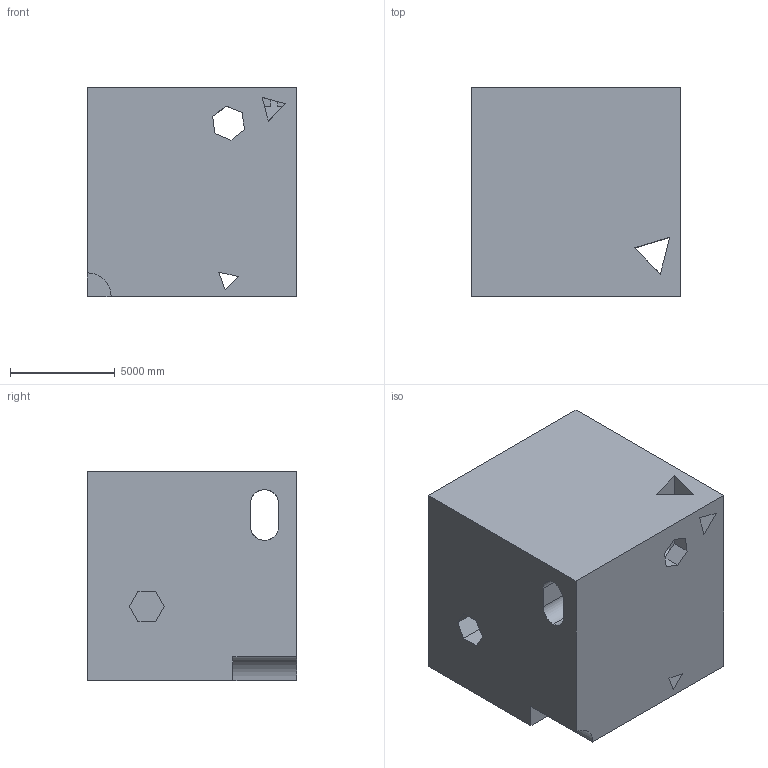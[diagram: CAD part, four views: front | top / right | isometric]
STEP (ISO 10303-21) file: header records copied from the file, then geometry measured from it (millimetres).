
FILE_DESCRIPTION (( 'STEP AP203' ), '1' );
FILE_NAME ('170.STEP', '2022-09-06T13:31:15', ( 'user' ), ( '' ), 'SwSTEP 2.0', 'SolidWorks 2021', '' );
FILE_SCHEMA (( 'CONFIG_CONTROL_DESIGN' ));
Length unit declared in the file: centimetre
Products named in the file (1): 170
Bounding box: 10000 x 10000 x 10000 mm (x, y, z)
Volume: 919718912391.9 mm3; surface area: 815254734.1 mm2
Topology: 1 solids, 1 shells, 53 faces, 165 edges, 110 vertices
Faces by surface type: plane 47, cylinder 6
Entity records: 1916 total; most frequent: CARTESIAN_POINT 383, ORIENTED_EDGE 330, DIRECTION 263, EDGE_CURVE 165, VECTOR 139, LINE 139, VERTEX_POINT 110, EDGE_LOOP 65
